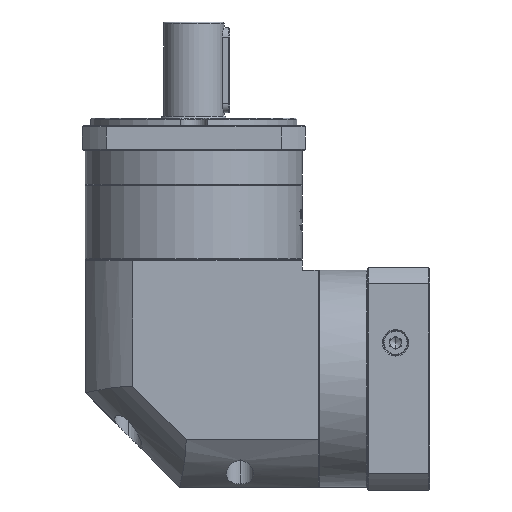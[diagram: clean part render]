
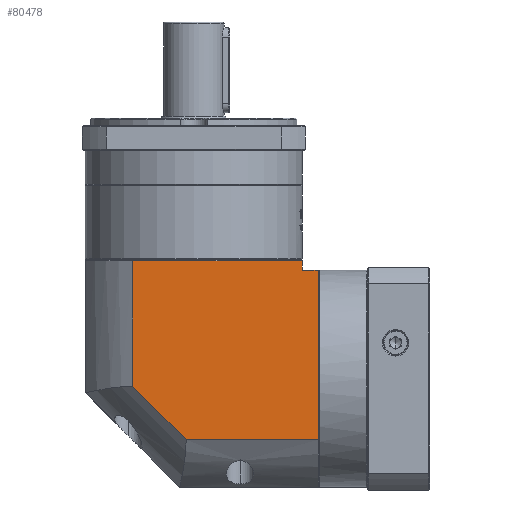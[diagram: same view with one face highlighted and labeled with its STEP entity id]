
A CAD part, left-side view. The second image highlights one B-rep face of the part: STEP entity #80478.
In plain terms, the highlighted planar face has unit normal (-1, 0, 0).
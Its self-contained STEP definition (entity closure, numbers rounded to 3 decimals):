
#1110 = DIRECTION ( 'NONE',  ( 0., 0., -1. ) ) ;
#4891 = CARTESIAN_POINT ( 'NONE',  ( -255.935, 23.83, 92.325 ) ) ;
#8956 = LINE ( 'NONE', #104028, #138330 ) ;
#10837 = DIRECTION ( 'NONE',  ( 0., 0., 1. ) ) ;
#11128 = AXIS2_PLACEMENT_3D ( 'NONE', #4891, #17001, #31962 ) ;
#12774 = EDGE_CURVE ( 'NONE', #53851, #116336, #114283, .T. ) ;
#13895 = CARTESIAN_POINT ( 'NONE',  ( -255.935, -1.271, 92.325 ) ) ;
#14535 = EDGE_CURVE ( 'NONE', #144052, #151443, #53434, .T. ) ;
#17001 = DIRECTION ( 'NONE',  ( 1., 0., 0. ) ) ;
#18522 = VECTOR ( 'NONE', #150865, 1000. ) ;
#19656 = VERTEX_POINT ( 'NONE', #111325 ) ;
#21651 = EDGE_LOOP ( 'NONE', ( #124449, #97837, #24550, #94734, #61131, #66312, #159790 ) ) ;
#24550 = ORIENTED_EDGE ( 'NONE', *, *, #81902, .F. ) ;
#31962 = DIRECTION ( 'NONE',  ( 0., 1., 0. ) ) ;
#32584 = EDGE_CURVE ( 'NONE', #128551, #116336, #8956, .T. ) ;
#40172 = CARTESIAN_POINT ( 'NONE',  ( -255.935, -99.57, 92.325 ) ) ;
#43120 = DIRECTION ( 'NONE',  ( 0., 0., 1. ) ) ;
#43195 = LINE ( 'NONE', #165754, #139598 ) ;
#43639 = CARTESIAN_POINT ( 'NONE',  ( -255.935, -29.609, -9.075 ) ) ;
#46882 = LINE ( 'NONE', #121100, #51010 ) ;
#51010 = VECTOR ( 'NONE', #160227, 1000. ) ;
#53434 = LINE ( 'NONE', #43639, #18522 ) ;
#53851 = VERTEX_POINT ( 'NONE', #138523 ) ;
#61128 = LINE ( 'NONE', #13895, #155583 ) ;
#61131 = ORIENTED_EDGE ( 'NONE', *, *, #137883, .T. ) ;
#66312 = ORIENTED_EDGE ( 'NONE', *, *, #12774, .T. ) ;
#73854 = LINE ( 'NONE', #40172, #110921 ) ;
#77230 = CARTESIAN_POINT ( 'NONE',  ( -255.935, -91.17, 85.825 ) ) ;
#80478 = ADVANCED_FACE ( 'NONE', ( #162567 ), #106453, .F. ) ;
#81902 = EDGE_CURVE ( 'NONE', #116655, #144052, #46882, .T. ) ;
#85039 = CARTESIAN_POINT ( 'NONE',  ( -255.935, -29.609, -9.075 ) ) ;
#93067 = CARTESIAN_POINT ( 'NONE',  ( -255.935, -99.57, -9.075 ) ) ;
#94734 = ORIENTED_EDGE ( 'NONE', *, *, #156072, .F. ) ;
#96353 = CARTESIAN_POINT ( 'NONE',  ( -255.935, -1.271, 19.263 ) ) ;
#97837 = ORIENTED_EDGE ( 'NONE', *, *, #14535, .F. ) ;
#103656 = CARTESIAN_POINT ( 'NONE',  ( -255.935, -91.17, -34.175 ) ) ;
#104028 = CARTESIAN_POINT ( 'NONE',  ( -255.935, 23.83, 85.825 ) ) ;
#106453 = PLANE ( 'NONE',  #11128 ) ;
#110921 = VECTOR ( 'NONE', #1110, 1000. ) ;
#111325 = CARTESIAN_POINT ( 'NONE',  ( -255.935, -99.57, 80.825 ) ) ;
#114283 = LINE ( 'NONE', #103656, #151213 ) ;
#116336 = VERTEX_POINT ( 'NONE', #77230 ) ;
#116655 = VERTEX_POINT ( 'NONE', #93067 ) ;
#121100 = CARTESIAN_POINT ( 'NONE',  ( -255.935, 23.83, -9.075 ) ) ;
#124449 = ORIENTED_EDGE ( 'NONE', *, *, #151442, .F. ) ;
#128393 = DIRECTION ( 'NONE',  ( 0., 1., 0. ) ) ;
#128551 = VERTEX_POINT ( 'NONE', #131748 ) ;
#131748 = CARTESIAN_POINT ( 'NONE',  ( -255.935, -1.271, 85.825 ) ) ;
#137883 = EDGE_CURVE ( 'NONE', #19656, #53851, #43195, .T. ) ;
#138330 = VECTOR ( 'NONE', #170162, 1000. ) ;
#138523 = CARTESIAN_POINT ( 'NONE',  ( -255.935, -91.17, 80.825 ) ) ;
#139598 = VECTOR ( 'NONE', #128393, 1000. ) ;
#144052 = VERTEX_POINT ( 'NONE', #85039 ) ;
#150865 = DIRECTION ( 'NONE',  ( 0., 0.707, 0.707 ) ) ;
#151213 = VECTOR ( 'NONE', #10837, 1000. ) ;
#151442 = EDGE_CURVE ( 'NONE', #151443, #128551, #61128, .T. ) ;
#151443 = VERTEX_POINT ( 'NONE', #96353 ) ;
#155583 = VECTOR ( 'NONE', #43120, 1000. ) ;
#156072 = EDGE_CURVE ( 'NONE', #19656, #116655, #73854, .T. ) ;
#159790 = ORIENTED_EDGE ( 'NONE', *, *, #32584, .F. ) ;
#160227 = DIRECTION ( 'NONE',  ( 0., 1., 0. ) ) ;
#162567 = FACE_OUTER_BOUND ( 'NONE', #21651, .T. ) ;
#165754 = CARTESIAN_POINT ( 'NONE',  ( -255.935, -91.17, 80.825 ) ) ;
#170162 = DIRECTION ( 'NONE',  ( 0., -1., 0. ) ) ;
